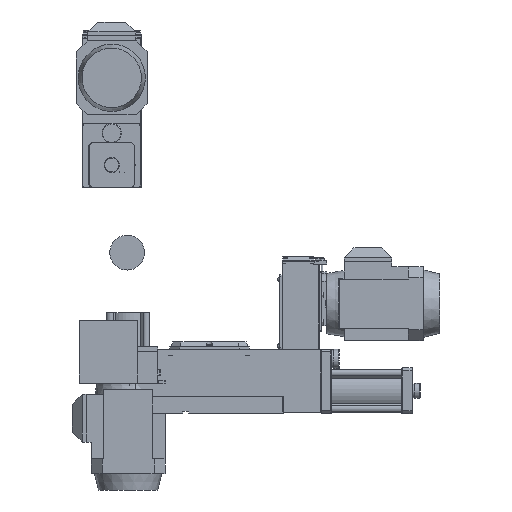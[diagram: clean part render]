
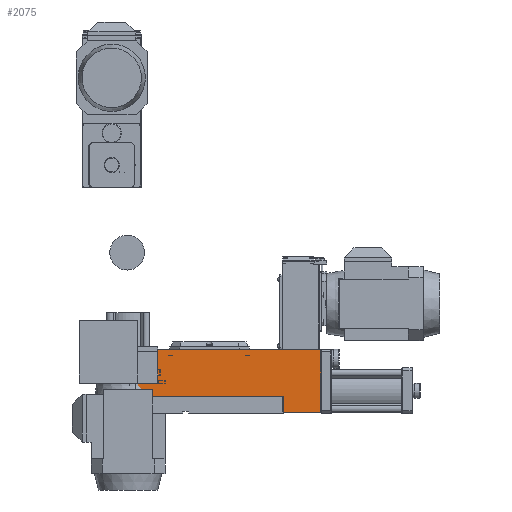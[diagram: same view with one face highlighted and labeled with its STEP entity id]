
A CAD part, left-side view. The second image highlights one B-rep face of the part: STEP entity #2075.
In plain terms, the highlighted planar face has unit normal (-1, 0, 0) as drawn and (0, 1, 0) by its records, which use the part's own axes.
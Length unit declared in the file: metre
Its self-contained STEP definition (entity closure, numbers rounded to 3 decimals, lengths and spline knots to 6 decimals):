
#2075 = ADVANCED_FACE( '', ( #2966 ), #2967, .T. );
#2966 = FACE_OUTER_BOUND( '', #5034, .T. );
#2967 = PLANE( '', #5035 );
#5034 = EDGE_LOOP( '', ( #7882, #7883, #7884, #7885, #7886, #7887 ) );
#5035 = AXIS2_PLACEMENT_3D( '', #7888, #7889, #7890 );
#7882 = ORIENTED_EDGE( '', *, *, #14017, .F. );
#7883 = ORIENTED_EDGE( '', *, *, #14023, .T. );
#7884 = ORIENTED_EDGE( '', *, *, #14026, .T. );
#7885 = ORIENTED_EDGE( '', *, *, #14027, .F. );
#7886 = ORIENTED_EDGE( '', *, *, #14028, .F. );
#7887 = ORIENTED_EDGE( '', *, *, #14029, .F. );
#7888 = CARTESIAN_POINT( '', ( -0.347, 0.098556, 0. ) );
#7889 = DIRECTION( '', ( 0., 1., 0. ) );
#7890 = DIRECTION( '', ( 0., 0., 1. ) );
#14017 = EDGE_CURVE( '', #15809, #15811, #15812, .T. );
#14023 = EDGE_CURVE( '', #15809, #15820, #15822, .T. );
#14026 = EDGE_CURVE( '', #15820, #15827, #15828, .T. );
#14027 = EDGE_CURVE( '', #15829, #15827, #15830, .T. );
#14028 = EDGE_CURVE( '', #15831, #15829, #15832, .T. );
#14029 = EDGE_CURVE( '', #15811, #15831, #15833, .T. );
#15809 = VERTEX_POINT( '', #18770 );
#15811 = VERTEX_POINT( '', #18773 );
#15812 = LINE( '', #18774, #18775 );
#15820 = VERTEX_POINT( '', #18787 );
#15822 = LINE( '', #18790, #18791 );
#15827 = VERTEX_POINT( '', #18796 );
#15828 = LINE( '', #18797, #18798 );
#15829 = VERTEX_POINT( '', #18799 );
#15830 = LINE( '', #18800, #18801 );
#15831 = VERTEX_POINT( '', #18802 );
#15832 = LINE( '', #18803, #18804 );
#15833 = LINE( '', #18805, #18806 );
#18770 = CARTESIAN_POINT( '', ( 0.0245, 0.098556, 0.032 ) );
#18773 = CARTESIAN_POINT( '', ( 0.0245, 0.098556, 0.1265 ) );
#18774 = CARTESIAN_POINT( '', ( 0.0245, 0.098556, 0. ) );
#18775 = VECTOR( '', #24123, 1. );
#18787 = CARTESIAN_POINT( '', ( -0.271, 0.098556, 0.032 ) );
#18790 = CARTESIAN_POINT( '', ( -0.235, 0.098556, 0.032 ) );
#18791 = VECTOR( '', #24129, 1. );
#18796 = CARTESIAN_POINT( '', ( -0.271, 0.098556, 0.0005 ) );
#18797 = CARTESIAN_POINT( '', ( -0.271, 0.098556, 0. ) );
#18798 = VECTOR( '', #24136, 1. );
#18799 = CARTESIAN_POINT( '', ( -0.3465, 0.098556, 0.0005 ) );
#18800 = CARTESIAN_POINT( '', ( -0.254, 0.098556, 0.0005 ) );
#18801 = VECTOR( '', #24137, 1. );
#18802 = CARTESIAN_POINT( '', ( -0.3465, 0.098556, 0.1265 ) );
#18803 = CARTESIAN_POINT( '', ( -0.3465, 0.098556, 0. ) );
#18804 = VECTOR( '', #24138, 1. );
#18805 = CARTESIAN_POINT( '', ( -0.254, 0.098556, 0.1265 ) );
#18806 = VECTOR( '', #24139, 1. );
#24123 = DIRECTION( '', ( 0., 0., 1. ) );
#24129 = DIRECTION( '', ( -1., 0., 0. ) );
#24136 = DIRECTION( '', ( 0., 0., -1. ) );
#24137 = DIRECTION( '', ( 1., 0., 0. ) );
#24138 = DIRECTION( '', ( 0., 0., -1. ) );
#24139 = DIRECTION( '', ( -1., 0., 0. ) );
